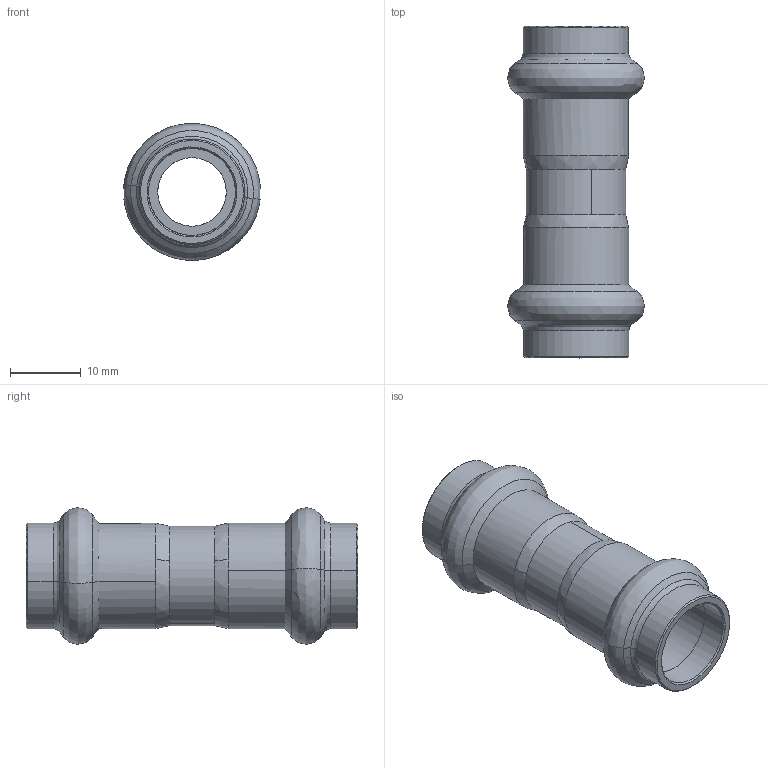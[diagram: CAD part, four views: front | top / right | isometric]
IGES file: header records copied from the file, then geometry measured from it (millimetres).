
Start section: Elysium IGES Interface
Global section: file name: C:\3d modellen sudo\C-Pr VP\SP8270V\8270VW12.igs; native system: CoCreate Modeling 17.00A  17-Jun-2010; preprocessor: CoCreate IGES_3D V2.2; author: Unknown; organization: Unknown; date: 20130129.123430; units: millimetre
Bounding box: 19.28 x 46.74 x 19.28 mm (x, y, z)
Volume: 3595.5 mm3; surface area: 4502.6 mm2
Topology: 1 solids, 1 shells, 74 faces, 172 edges, 104 vertices
Faces by surface type: bspline 74
